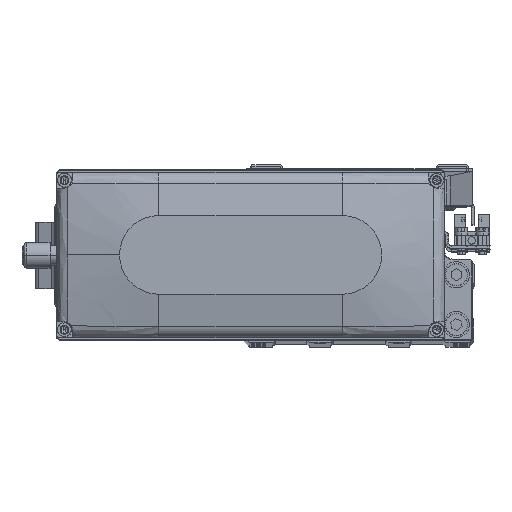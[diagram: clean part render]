
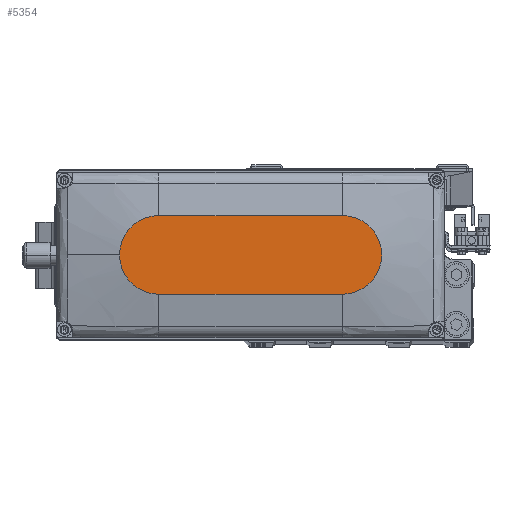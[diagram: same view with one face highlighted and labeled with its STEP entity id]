
A CAD part, top view. The second image highlights one B-rep face of the part: STEP entity #5354.
In plain terms, the highlighted planar face has unit normal (0, 0, 1).
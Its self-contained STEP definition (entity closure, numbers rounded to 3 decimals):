
#390 = CIRCLE ( 'NONE', #28591, 15. ) ;
#1254 = DIRECTION ( 'NONE',  ( 1., 0., 0. ) ) ;
#2317 = CARTESIAN_POINT ( 'NONE',  ( 50., 0., 35. ) ) ;
#2507 = CARTESIAN_POINT ( 'NONE',  ( 35., 15., 35. ) ) ;
#2509 = LINE ( 'NONE', #17913, #18919 ) ;
#2569 = CIRCLE ( 'NONE', #9015, 15. ) ;
#3021 = CARTESIAN_POINT ( 'NONE',  ( 0., 0., 35. ) ) ;
#4564 = VERTEX_POINT ( 'NONE', #31688 ) ;
#5354 = ADVANCED_FACE ( 'NONE', ( #22218 ), #37630, .T. ) ;
#5393 = CARTESIAN_POINT ( 'NONE',  ( -35., 15., 35. ) ) ;
#7028 = EDGE_CURVE ( 'NONE', #4564, #11822, #2569, .T. ) ;
#8342 = CARTESIAN_POINT ( 'NONE',  ( -35., 15., 35. ) ) ;
#9015 = AXIS2_PLACEMENT_3D ( 'NONE', #20432, #35837, #1254 ) ;
#9181 = DIRECTION ( 'NONE',  ( 0., 0., 1. ) ) ;
#11822 = VERTEX_POINT ( 'NONE', #2317 ) ;
#11951 = DIRECTION ( 'NONE',  ( 0., 0., 1. ) ) ;
#13063 = ORIENTED_EDGE ( 'NONE', *, *, #35082, .T. ) ;
#14146 = ORIENTED_EDGE ( 'NONE', *, *, #14467, .T. ) ;
#14359 = EDGE_CURVE ( 'NONE', #41195, #35613, #47521, .T. ) ;
#14467 = EDGE_CURVE ( 'NONE', #28992, #41195, #39995, .T. ) ;
#17913 = CARTESIAN_POINT ( 'NONE',  ( -35., -15., 35. ) ) ;
#18222 = EDGE_LOOP ( 'NONE', ( #14146, #40565, #44756, #23078, #13063 ) ) ;
#18420 = DIRECTION ( 'NONE',  ( 0., 0., 1. ) ) ;
#18919 = VECTOR ( 'NONE', #33323, 1000. ) ;
#20432 = CARTESIAN_POINT ( 'NONE',  ( 35., 0., 35. ) ) ;
#20786 = DIRECTION ( 'NONE',  ( -1., 0., 0. ) ) ;
#22218 = FACE_OUTER_BOUND ( 'NONE', #18222, .T. ) ;
#23078 = ORIENTED_EDGE ( 'NONE', *, *, #7028, .T. ) ;
#24574 = DIRECTION ( 'NONE',  ( 1., 0., 0. ) ) ;
#25521 = CARTESIAN_POINT ( 'NONE',  ( -35., -15., 35. ) ) ;
#25723 = AXIS2_PLACEMENT_3D ( 'NONE', #46590, #11951, #27372 ) ;
#27372 = DIRECTION ( 'NONE',  ( 1., 0., 0. ) ) ;
#28591 = AXIS2_PLACEMENT_3D ( 'NONE', #43813, #9181, #24574 ) ;
#28992 = VERTEX_POINT ( 'NONE', #2507 ) ;
#31688 = CARTESIAN_POINT ( 'NONE',  ( 35., -15., 35. ) ) ;
#33323 = DIRECTION ( 'NONE',  ( 1., 0., 0. ) ) ;
#33832 = DIRECTION ( 'NONE',  ( 1., 0., 0. ) ) ;
#35082 = EDGE_CURVE ( 'NONE', #11822, #28992, #390, .T. ) ;
#35613 = VERTEX_POINT ( 'NONE', #25521 ) ;
#35837 = DIRECTION ( 'NONE',  ( 0., 0., 1. ) ) ;
#37630 = PLANE ( 'NONE',  #42788 ) ;
#39995 = LINE ( 'NONE', #5393, #42693 ) ;
#40565 = ORIENTED_EDGE ( 'NONE', *, *, #14359, .T. ) ;
#41195 = VERTEX_POINT ( 'NONE', #8342 ) ;
#42693 = VECTOR ( 'NONE', #20786, 1000. ) ;
#42788 = AXIS2_PLACEMENT_3D ( 'NONE', #3021, #18420, #33832 ) ;
#43813 = CARTESIAN_POINT ( 'NONE',  ( 35., 0., 35. ) ) ;
#44756 = ORIENTED_EDGE ( 'NONE', *, *, #46047, .T. ) ;
#46047 = EDGE_CURVE ( 'NONE', #35613, #4564, #2509, .T. ) ;
#46590 = CARTESIAN_POINT ( 'NONE',  ( -35., 0., 35. ) ) ;
#47521 = CIRCLE ( 'NONE', #25723, 15. ) ;
